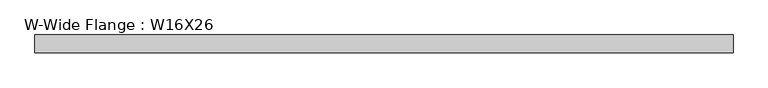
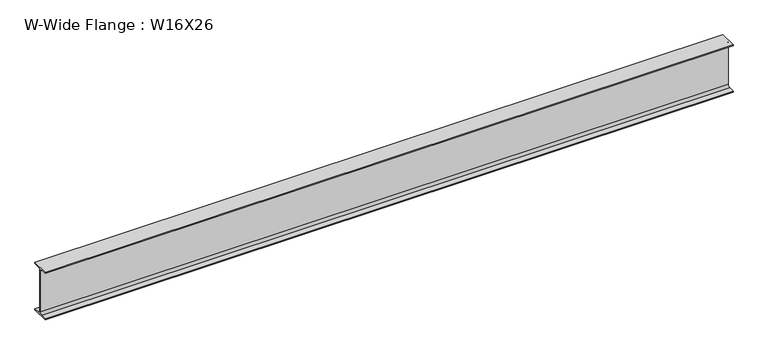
"""IFC4 building model written with IfcOpenShell, lengths in millimetres: beam geometry, W-Wide Flange : W16X26."""

from ifc_helpers import new_model, si_unit, point, frame, frame_2d, origin, place, context, project, spatial, polyline, circle_curve, trimmed, segment, composite_curve, outline, extrude, source, transform, mapped, element, save


def w_wide_flange_w16x26_148a8972(model_context):
    return source(origin(), model_context, "Body", "SweptSolid", [
        extrude(outline(composite_curve([segment(polyline([(69.85, -190.5496094), (69.85, -199.2808594), (-69.85, -199.2808594), (-69.85, -190.5496094), (-21.43125, -190.5496094)]), True, "CONTINUOUS"), segment(trimmed(circle_curve(frame_2d((-21.43125, -172.2933594)), 18.25625), [point((-21.43125, -190.5496094))], [point((-3.175, -172.2933594))], True, "CARTESIAN"), True, "CONTINUOUS"), segment(polyline([(-3.175, -172.2933594), (-3.175, 172.2933594)]), True, "CONTINUOUS"), segment(trimmed(circle_curve(frame_2d((-21.43125, 172.2933594)), 18.25625), [point((-3.175, 172.2933594))], [point((-21.43125, 190.5496094))], True, "CARTESIAN"), True, "CONTINUOUS"), segment(polyline([(-21.43125, 190.5496094), (-69.85, 190.5496094), (-69.85, 199.2808594), (69.85, 199.2808594), (69.85, 190.5496094), (21.43125, 190.5496094)]), True, "CONTINUOUS"), segment(trimmed(circle_curve(frame_2d((21.43125, 172.2933594)), 18.25625), [point((21.43125, 190.5496094))], [point((3.175, 172.2933594))], True, "CARTESIAN"), True, "CONTINUOUS"), segment(polyline([(3.175, 172.2933594), (3.175, -172.2933594)]), True, "CONTINUOUS"), segment(trimmed(circle_curve(frame_2d((21.43125, -172.2933594)), 18.25625), [point((3.175, -172.2933594))], [point((21.43125, -190.5496094))], True, "CARTESIAN"), True, "CONTINUOUS"), segment(polyline([(21.43125, -190.5496094), (69.85, -190.5496094)]), True, "CONTINUOUS")], self_intersect=False)), frame((-2743.9453266, 0.0, 0.0), z_axis=(1.0, 0.0, 0.0), x_axis=(0.0, 1.0, 0.0)), (0.0, 0.0, 1.0), 5486.3626009),
    ])


if __name__ == "__main__":
    model = new_model("IFC4")
    model_context = context("Model", 3, world=origin())
    ifc_project = project(units=[si_unit("LENGTHUNIT", "METRE", prefix="MILLI")], contexts=[model_context])
    site = spatial("IfcSite", under=ifc_project)
    building = spatial("IfcBuilding", under=site)
    placement = place(None, origin())
    w_wide_flange_w16x26_shape = w_wide_flange_w16x26_148a8972(model_context)
    element("IfcBeam", 1, ObjectType="W-Wide Flange : W16X26", at=placement, inside=building, context=model_context, shape_type="MappedRepresentation", body=[
        mapped(w_wide_flange_w16x26_shape, transform((0.0, 0.0, 0.0), x_axis=(1.0, 0.0, 0.0), y_axis=(0.0, 1.0, 0.0), z_axis=(0.0, 0.0, 1.0))),
    ])
    save(model, "model.ifc")
